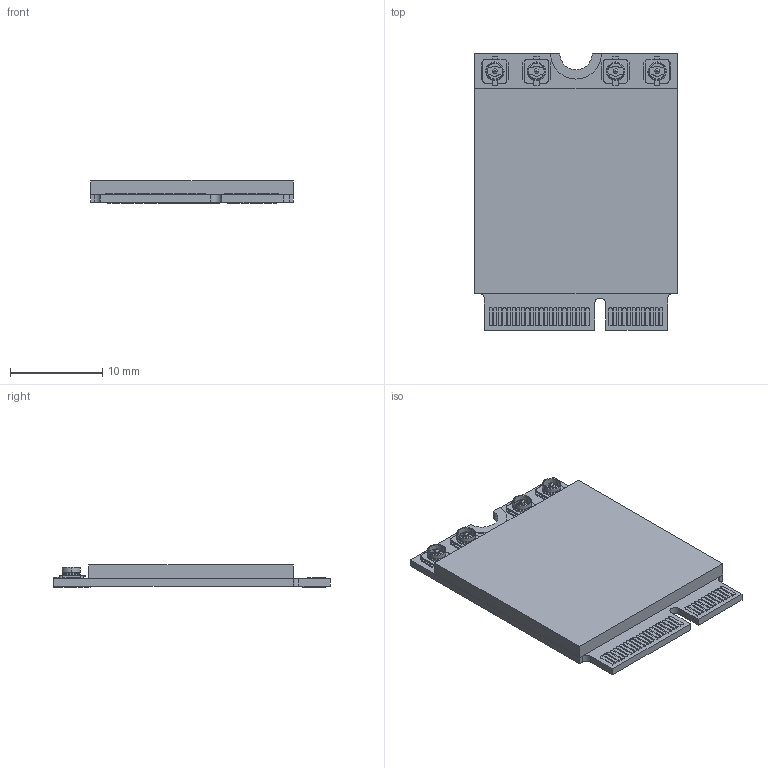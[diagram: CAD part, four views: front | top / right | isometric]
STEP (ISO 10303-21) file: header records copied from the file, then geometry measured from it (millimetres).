
FILE_DESCRIPTION(('CATIA V5 STEP Exchange'),'2;1');
FILE_NAME('\\server-nufotec\Projekt-Kunder\Embedded-Artists\Temp\2019-10-08\1CX-M2-MODULE-REV-PA4-ASSY-2019-10-08.stp','2019-10-08T08:59:01+00:00',('none'),('none'),'CATIA Version 5 Release 19 GA (IN-10)','CATIA V5 STEP AP214','none');
FILE_SCHEMA(('AUTOMOTIVE_DESIGN { 1 0 10303 214 1 1 1 1 }'));
Length unit declared in the file: millimetre
Products named in the file (1): 1CX-M2-MODULE-REV-PA4-ASSY-2019-10-08
Bounding box: 22 x 30 x 2.4 mm (x, y, z)
Volume: 1288.8 mm3; surface area: 2889.1 mm2
Topology: 9 solids, 9 shells, 641 faces, 1766 edges, 1151 vertices
Faces by surface type: plane 425, cylinder 184, cone 24, torus 8
Entity records: 20747 total; most frequent: CARTESIAN_POINT 3706, ORIENTED_EDGE 3532, DIRECTION 2606, EDGE_CURVE 1766, VECTOR 1243, LINE 1243, VERTEX_POINT 1151, AXIS2_PLACEMENT_3D 924
